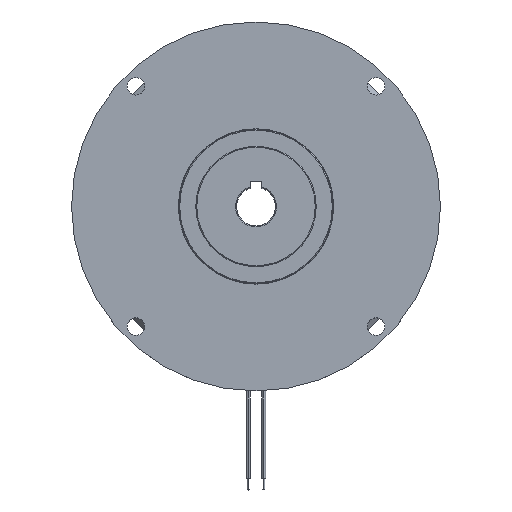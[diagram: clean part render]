
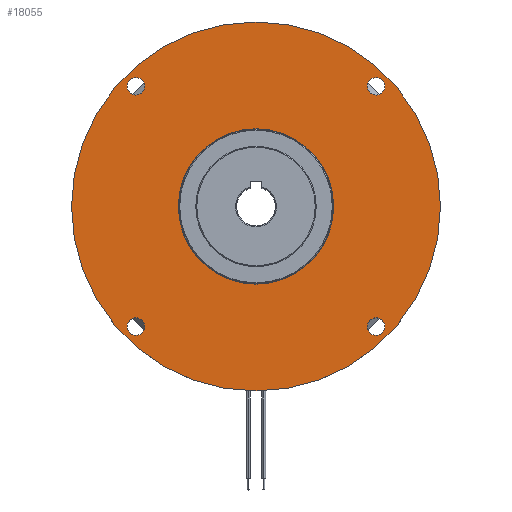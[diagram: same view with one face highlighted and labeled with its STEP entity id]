
A CAD part, top view. The second image highlights one B-rep face of the part: STEP entity #18055.
In plain terms, the highlighted planar face has unit normal (0, 0, 1).
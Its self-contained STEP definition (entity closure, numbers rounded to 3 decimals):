
#1080 = CARTESIAN_POINT ( 'NONE',  ( 0., 0., 0. ) ) ;
#1101 = ORIENTED_EDGE ( 'NONE', *, *, #99964, .F. ) ;
#1269 = ORIENTED_EDGE ( 'NONE', *, *, #114294, .F. ) ;
#1785 = VERTEX_POINT ( 'NONE', #24167 ) ;
#2118 = DIRECTION ( 'NONE',  ( 1., 0., 0. ) ) ;
#2209 = VERTEX_POINT ( 'NONE', #105551 ) ;
#3400 = CARTESIAN_POINT ( 'NONE',  ( 0., 0., 0. ) ) ;
#3877 = CIRCLE ( 'NONE', #54810, 4.5 ) ;
#5272 = EDGE_LOOP ( 'NONE', ( #118493, #103024 ) ) ;
#5733 = AXIS2_PLACEMENT_3D ( 'NONE', #68327, #39639, #70180 ) ;
#6134 = CARTESIAN_POINT ( 'NONE',  ( 66.372, -61.872, 0. ) ) ;
#6573 = EDGE_CURVE ( 'NONE', #8868, #2209, #56636, .T. ) ;
#6797 = FACE_BOUND ( 'NONE', #63465, .T. ) ;
#7491 = DIRECTION ( 'NONE',  ( 1., 0., 0. ) ) ;
#8151 = VERTEX_POINT ( 'NONE', #43773 ) ;
#8338 = DIRECTION ( 'NONE',  ( 1., 0., 0. ) ) ;
#8868 = VERTEX_POINT ( 'NONE', #36425 ) ;
#8966 = ORIENTED_EDGE ( 'NONE', *, *, #78869, .F. ) ;
#9437 = DIRECTION ( 'NONE',  ( 1., 0., 0. ) ) ;
#10185 = CARTESIAN_POINT ( 'NONE',  ( 61.872, -61.872, 0. ) ) ;
#10324 = CIRCLE ( 'NONE', #87698, 95. ) ;
#10795 = DIRECTION ( 'NONE',  ( 0., 0., 1. ) ) ;
#12337 = DIRECTION ( 'NONE',  ( 1., 0., 0. ) ) ;
#16343 = FACE_BOUND ( 'NONE', #106776, .T. ) ;
#16962 = CARTESIAN_POINT ( 'NONE',  ( 0., 95., 0. ) ) ;
#17598 = AXIS2_PLACEMENT_3D ( 'NONE', #77649, #48957, #69326 ) ;
#17825 = EDGE_CURVE ( 'NONE', #8151, #1785, #115340, .T. ) ;
#18055 = ADVANCED_FACE ( 'NONE', ( #112641, #16343, #6797, #94745, #45692, #44435 ), #64815, .F. ) ;
#19545 = CARTESIAN_POINT ( 'NONE',  ( 0., 0., 0. ) ) ;
#20785 = DIRECTION ( 'NONE',  ( 0., 0., 1. ) ) ;
#21148 = DIRECTION ( 'NONE',  ( 0., 0., 1. ) ) ;
#22251 = DIRECTION ( 'NONE',  ( 1., 0., 0. ) ) ;
#23178 = ORIENTED_EDGE ( 'NONE', *, *, #119098, .F. ) ;
#23608 = CIRCLE ( 'NONE', #52375, 4.5 ) ;
#23867 = EDGE_CURVE ( 'NONE', #80261, #120305, #40610, .T. ) ;
#24167 = CARTESIAN_POINT ( 'NONE',  ( -57.372, 61.872, 0. ) ) ;
#25102 = VERTEX_POINT ( 'NONE', #88113 ) ;
#25735 = AXIS2_PLACEMENT_3D ( 'NONE', #40920, #21148, #90603 ) ;
#30435 = CARTESIAN_POINT ( 'NONE',  ( 0., 0., 0. ) ) ;
#30780 = EDGE_CURVE ( 'NONE', #25102, #110561, #10324, .T. ) ;
#33428 = ORIENTED_EDGE ( 'NONE', *, *, #72502, .F. ) ;
#36425 = CARTESIAN_POINT ( 'NONE',  ( 66.372, 61.872, 0. ) ) ;
#37074 = DIRECTION ( 'NONE',  ( 0., 0., 1. ) ) ;
#37568 = CIRCLE ( 'NONE', #88391, 40. ) ;
#39639 = DIRECTION ( 'NONE',  ( 0., 0., 1. ) ) ;
#40610 = CIRCLE ( 'NONE', #89170, 4.5 ) ;
#40920 = CARTESIAN_POINT ( 'NONE',  ( 61.872, 61.872, 0. ) ) ;
#42267 = DIRECTION ( 'NONE',  ( 0., 0., 1. ) ) ;
#43773 = CARTESIAN_POINT ( 'NONE',  ( -66.372, 61.872, 0. ) ) ;
#44400 = ORIENTED_EDGE ( 'NONE', *, *, #118346, .F. ) ;
#44435 = FACE_BOUND ( 'NONE', #73080, .T. ) ;
#44603 = ORIENTED_EDGE ( 'NONE', *, *, #108813, .F. ) ;
#45073 = DIRECTION ( 'NONE',  ( 0., 0., -1. ) ) ;
#45692 = FACE_OUTER_BOUND ( 'NONE', #5272, .T. ) ;
#45771 = CARTESIAN_POINT ( 'NONE',  ( -61.872, -61.872, 0. ) ) ;
#47129 = CIRCLE ( 'NONE', #100051, 95. ) ;
#48957 = DIRECTION ( 'NONE',  ( 0., 0., 1. ) ) ;
#50071 = CARTESIAN_POINT ( 'NONE',  ( 57.372, -61.872, 0. ) ) ;
#50811 = DIRECTION ( 'NONE',  ( 0., 0., 1. ) ) ;
#52375 = AXIS2_PLACEMENT_3D ( 'NONE', #10185, #10795, #22251 ) ;
#54218 = AXIS2_PLACEMENT_3D ( 'NONE', #16962, #45073, #75631 ) ;
#54702 = AXIS2_PLACEMENT_3D ( 'NONE', #3400, #119396, #12337 ) ;
#54810 = AXIS2_PLACEMENT_3D ( 'NONE', #115814, #20785, #58447 ) ;
#56636 = CIRCLE ( 'NONE', #5733, 4.5 ) ;
#58447 = DIRECTION ( 'NONE',  ( 1., 0., 0. ) ) ;
#59079 = DIRECTION ( 'NONE',  ( 1., 0., 0. ) ) ;
#60277 = CIRCLE ( 'NONE', #25735, 4.5 ) ;
#60990 = DIRECTION ( 'NONE',  ( 1., 0., 0. ) ) ;
#61068 = ORIENTED_EDGE ( 'NONE', *, *, #23867, .F. ) ;
#61209 = CIRCLE ( 'NONE', #97874, 4.5 ) ;
#63465 = EDGE_LOOP ( 'NONE', ( #1269, #98682 ) ) ;
#64815 = PLANE ( 'NONE',  #54218 ) ;
#65752 = CARTESIAN_POINT ( 'NONE',  ( -61.872, -61.872, 0. ) ) ;
#68327 = CARTESIAN_POINT ( 'NONE',  ( 61.872, 61.872, 0. ) ) ;
#69326 = DIRECTION ( 'NONE',  ( 1., 0., 0. ) ) ;
#69457 = AXIS2_PLACEMENT_3D ( 'NONE', #65752, #37074, #8338 ) ;
#70180 = DIRECTION ( 'NONE',  ( 1., 0., 0. ) ) ;
#71839 = EDGE_LOOP ( 'NONE', ( #44603, #8966 ) ) ;
#72502 = EDGE_CURVE ( 'NONE', #120305, #80261, #77662, .T. ) ;
#73080 = EDGE_LOOP ( 'NONE', ( #1101, #44400 ) ) ;
#75288 = VERTEX_POINT ( 'NONE', #50071 ) ;
#75631 = DIRECTION ( 'NONE',  ( -1., 0., 0. ) ) ;
#76466 = VERTEX_POINT ( 'NONE', #6134 ) ;
#77649 = CARTESIAN_POINT ( 'NONE',  ( -61.872, 61.872, 0. ) ) ;
#77662 = CIRCLE ( 'NONE', #69457, 4.5 ) ;
#78869 = EDGE_CURVE ( 'NONE', #90400, #81917, #85435, .T. ) ;
#79883 = ORIENTED_EDGE ( 'NONE', *, *, #6573, .F. ) ;
#80261 = VERTEX_POINT ( 'NONE', #119261 ) ;
#81917 = VERTEX_POINT ( 'NONE', #106986 ) ;
#84205 = EDGE_LOOP ( 'NONE', ( #79883, #23178 ) ) ;
#84336 = EDGE_CURVE ( 'NONE', #110561, #25102, #47129, .T. ) ;
#85435 = CIRCLE ( 'NONE', #54702, 40. ) ;
#87698 = AXIS2_PLACEMENT_3D ( 'NONE', #30435, #50811, #9437 ) ;
#88113 = CARTESIAN_POINT ( 'NONE',  ( 95., 0., 0. ) ) ;
#88391 = AXIS2_PLACEMENT_3D ( 'NONE', #1080, #117700, #60990 ) ;
#89170 = AXIS2_PLACEMENT_3D ( 'NONE', #45771, #42267, #2118 ) ;
#90400 = VERTEX_POINT ( 'NONE', #125834 ) ;
#90603 = DIRECTION ( 'NONE',  ( 1., 0., 0. ) ) ;
#94745 = FACE_BOUND ( 'NONE', #71839, .T. ) ;
#94821 = CARTESIAN_POINT ( 'NONE',  ( 61.872, -61.872, 0. ) ) ;
#96449 = CARTESIAN_POINT ( 'NONE',  ( -95., 0., 0. ) ) ;
#97314 = DIRECTION ( 'NONE',  ( 0., 0., 1. ) ) ;
#97874 = AXIS2_PLACEMENT_3D ( 'NONE', #94821, #123490, #7491 ) ;
#98682 = ORIENTED_EDGE ( 'NONE', *, *, #17825, .F. ) ;
#99964 = EDGE_CURVE ( 'NONE', #76466, #75288, #61209, .T. ) ;
#100051 = AXIS2_PLACEMENT_3D ( 'NONE', #19545, #97314, #59079 ) ;
#103024 = ORIENTED_EDGE ( 'NONE', *, *, #84336, .T. ) ;
#105551 = CARTESIAN_POINT ( 'NONE',  ( 57.372, 61.872, 0. ) ) ;
#106776 = EDGE_LOOP ( 'NONE', ( #33428, #61068 ) ) ;
#106986 = CARTESIAN_POINT ( 'NONE',  ( 40., 0., 0. ) ) ;
#108813 = EDGE_CURVE ( 'NONE', #81917, #90400, #37568, .T. ) ;
#110561 = VERTEX_POINT ( 'NONE', #96449 ) ;
#112641 = FACE_BOUND ( 'NONE', #84205, .T. ) ;
#113577 = CARTESIAN_POINT ( 'NONE',  ( -57.372, -61.872, 0. ) ) ;
#114294 = EDGE_CURVE ( 'NONE', #1785, #8151, #3877, .T. ) ;
#115340 = CIRCLE ( 'NONE', #17598, 4.5 ) ;
#115814 = CARTESIAN_POINT ( 'NONE',  ( -61.872, 61.872, 0. ) ) ;
#117700 = DIRECTION ( 'NONE',  ( 0., 0., 1. ) ) ;
#118346 = EDGE_CURVE ( 'NONE', #75288, #76466, #23608, .T. ) ;
#118493 = ORIENTED_EDGE ( 'NONE', *, *, #30780, .T. ) ;
#119098 = EDGE_CURVE ( 'NONE', #2209, #8868, #60277, .T. ) ;
#119261 = CARTESIAN_POINT ( 'NONE',  ( -66.372, -61.872, 0. ) ) ;
#119396 = DIRECTION ( 'NONE',  ( 0., 0., 1. ) ) ;
#120305 = VERTEX_POINT ( 'NONE', #113577 ) ;
#123490 = DIRECTION ( 'NONE',  ( 0., 0., 1. ) ) ;
#125834 = CARTESIAN_POINT ( 'NONE',  ( -40., 0., 0. ) ) ;
